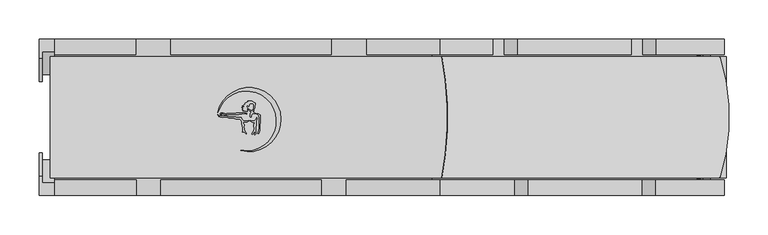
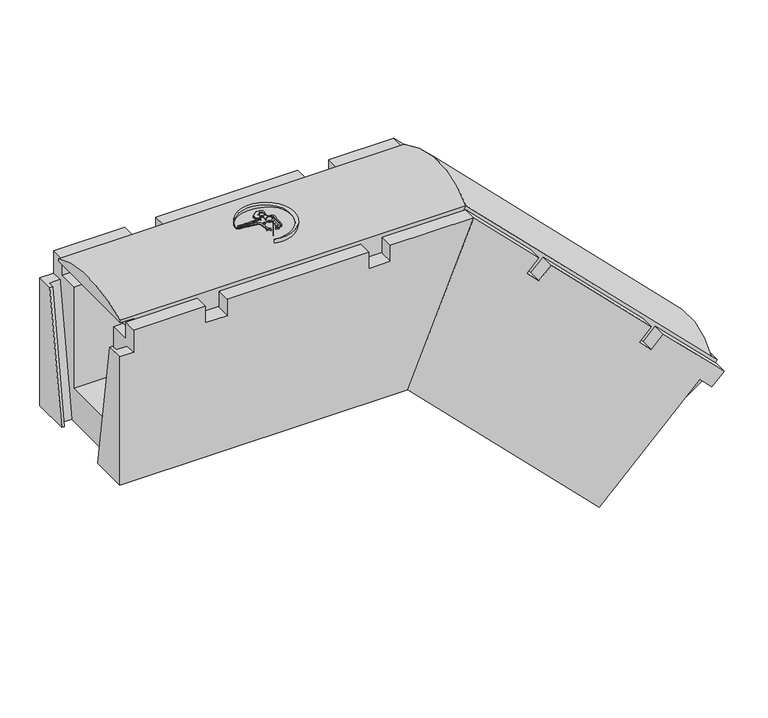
"""IFC4 building model written with IfcOpenShell, lengths in millimetres: cable carrier fitting geometry, Evotray type 1 vertical bend down : Evotray type 1 vertical bend down."""

import ifcopenshell
import ifcopenshell.guid

model = None  # the IFC model being written
_history = None  # IfcOwnerHistory: only IFC2X3 demands one
_inside = {}  # id of a spatial element -> (the spatial element, [elements in it])
_under = {}  # id of a project, library or spatial element -> (it, [spatial elements below it])
_declared = {}  # id of a project -> (the project, [libraries it declares])
_typed = {}  # id of a type object -> (the type object, [elements of that type])
_made_of = {}  # id of a material, layer set ... -> (it, [elements and type objects made of it])


def new_model(schema):
    """Start an empty IFC model of exactly this schema.

    Asked for "IFC4X3", IfcOpenShell would pick the latest addendum, in which some entities
    have other attributes; the version numbers below select the first issue.
    IFC2X3 requires an IfcOwnerHistory on every rooted entity: one is made here for all.
    """
    global model, _history
    if schema == "IFC4X3":
        model = ifcopenshell.file(schema_version=(4, 3, 0, 0))
    else:
        model = ifcopenshell.file(schema=schema)
    _inside.clear()
    _under.clear()
    _declared.clear()
    _typed.clear()
    _made_of.clear()
    _history = None
    if model.schema == "IFC2X3":
        org = make("IfcOrganization", Name="unknown")
        user = make(
            "IfcPersonAndOrganization",
            ThePerson=make("IfcPerson", FamilyName="unknown"),
            TheOrganization=org,
        )
        app = make(
            "IfcApplication",
            ApplicationDeveloper=org,
            Version="unknown",
            ApplicationFullName="unknown",
            ApplicationIdentifier="unknown",
        )
        _history = make(
            "IfcOwnerHistory",
            OwningUser=user,
            OwningApplication=app,
            ChangeAction="ADDED",
            CreationDate=0,
        )
    return model


def make(cls, **values):
    """One entity of the class cls with the attributes given. An attribute that is None is left unset."""
    return model.create_entity(
        cls, **{name: value for name, value in values.items() if value is not None}
    )


def rooted(cls, **values):
    """An entity with a GlobalId (a new one), such as an element, a storey or a relation."""
    return make(cls, GlobalId=ifcopenshell.guid.new(), OwnerHistory=_history, **values)


def si_unit(unit_type, name, prefix=None):
    """IfcSIUnit, for example si_unit("LENGTHUNIT", "METRE", prefix="MILLI")."""
    return make("IfcSIUnit", UnitType=unit_type, Prefix=prefix, Name=name)


def assignment(units):
    """IfcUnitAssignment: the units of a project."""
    return None if units is None else make("IfcUnitAssignment", Units=units)


def point(xyz):
    """IfcCartesianPoint."""
    return None if xyz is None else make("IfcCartesianPoint", Coordinates=xyz)


def direction(xyz):
    """IfcDirection."""
    return None if xyz is None else make("IfcDirection", DirectionRatios=xyz)


def frame(location, z_axis=None, x_axis=None):
    """IfcAxis2Placement3D, a coordinate frame: its origin and axes. An axis left out is left unset."""
    return make(
        "IfcAxis2Placement3D",
        Location=point(location),
        Axis=direction(z_axis),
        RefDirection=direction(x_axis),
    )


def frame_2d(location, x_axis=None):
    """IfcAxis2Placement2D, a coordinate frame in the plane: its origin and x axis."""
    return make(
        "IfcAxis2Placement2D", Location=point(location), RefDirection=direction(x_axis)
    )


def origin():
    """The frame at (0, 0, 0) with its axes left unset."""
    return frame((0.0, 0.0, 0.0))


def place(relative_to, where):
    """IfcLocalPlacement: puts the frame where relative to a parent placement (None: the world)."""
    return make(
        "IfcLocalPlacement", PlacementRelTo=relative_to, RelativePlacement=where
    )


def context(
    kind, dimensions, precision=None, world=None, true_north=None, identifier=None
):
    """IfcGeometricRepresentationContext, for example the 3D "Model" context."""
    return make(
        "IfcGeometricRepresentationContext",
        ContextIdentifier=identifier,
        ContextType=kind,
        CoordinateSpaceDimension=dimensions,
        Precision=precision,
        WorldCoordinateSystem=world,
        TrueNorth=true_north,
    )


def project(units=None, contexts=None):
    """IfcProject with its units and contexts."""
    return rooted(
        "IfcProject",
        Name="project",
        RepresentationContexts=contexts,
        UnitsInContext=assignment(units),
    )


def spatial(cls, under=None, at=None, **own):
    """A site, building, storey or space (cls), placed at a placement, below another one or the project."""
    s = rooted(cls, ObjectPlacement=at, **own)
    if under is not None:
        _under.setdefault(under.id(), (under, []))[1].append(s)
    return s


def polyline(points):
    """IfcPolyline through the points."""
    return make("IfcPolyline", Points=[point(p) for p in points])


def circle_curve(where, radius):
    """IfcCircle in the frame where."""
    return make("IfcCircle", Position=where, Radius=radius)


def ellipse_curve(where, semi_axis1, semi_axis2):
    """IfcEllipse in the frame where."""
    return make(
        "IfcEllipse", Position=where, SemiAxis1=semi_axis1, SemiAxis2=semi_axis2
    )


def trimmed(basis, trim1, trim2, sense, master):
    """IfcTrimmedCurve: the piece of a basis curve between two trims."""
    return make(
        "IfcTrimmedCurve",
        BasisCurve=basis,
        Trim1=trim1,
        Trim2=trim2,
        SenseAgreement=sense,
        MasterRepresentation=master,
    )


def segment(curve, same_sense, transition):
    """IfcCompositeCurveSegment."""
    return make(
        "IfcCompositeCurveSegment",
        Transition=transition,
        SameSense=same_sense,
        ParentCurve=curve,
    )


def composite_curve(segments, self_intersect=None):
    """IfcCompositeCurve: segments joined end to end."""
    return make("IfcCompositeCurve", Segments=segments, SelfIntersect=self_intersect)


def outline(outer, holes=None, kind="AREA"):
    """IfcArbitraryClosedProfileDef: a profile drawn as a closed curve; with holes, ...WithVoids."""
    if holes is None:
        return make("IfcArbitraryClosedProfileDef", ProfileType=kind, OuterCurve=outer)
    return make(
        "IfcArbitraryProfileDefWithVoids",
        ProfileType=kind,
        OuterCurve=outer,
        InnerCurves=holes,
    )


def extrude(swept, where, along, depth):
    """IfcExtrudedAreaSolid: the profile swept, set in the frame where, extruded along a direction by depth."""
    return make(
        "IfcExtrudedAreaSolid",
        SweptArea=swept,
        Position=where,
        ExtrudedDirection=direction(along),
        Depth=depth,
    )


def faces_of(points, faces, orient=None, outer=None):
    """IfcFace entities. A face is a list of loops; a loop is a list of indices into points, from 0.

    orient and outer hold one flag for each loop. By default every Orientation is true, the
    first loop of a face is its IfcFaceOuterBound and the others are IfcFaceBound.
    """
    made = []
    for i, loops in enumerate(faces):
        bounds = []
        for j, loop in enumerate(loops):
            is_outer = j == 0 if outer is None else outer[i][j]
            bounds.append(
                make(
                    "IfcFaceOuterBound" if is_outer else "IfcFaceBound",
                    Bound=make("IfcPolyLoop", Polygon=[points[k] for k in loop]),
                    Orientation=True if orient is None else orient[i][j],
                )
            )
        made.append(make("IfcFace", Bounds=bounds))
    return made


def faceted_brep(points, faces, orient=None, outer=None, voids=None):
    """IfcFacetedBrep: a solid bounded by flat faces; with voids (closed shells), ...WithVoids."""
    shared = [point(p) for p in points]
    hull = make("IfcClosedShell", CfsFaces=faces_of(shared, faces, orient, outer))
    if voids is None:
        return make("IfcFacetedBrep", Outer=hull)
    return make(
        "IfcFacetedBrepWithVoids",
        Outer=hull,
        Voids=[
            make(cls, CfsFaces=faces_of(shared, fs, o, b)) for cls, fs, o, b in voids
        ],
    )


def shape(context_of_items, identifier, shape_type, items):
    """IfcShapeRepresentation: the items that make up one representation, for example the "Body"."""
    return make(
        "IfcShapeRepresentation",
        ContextOfItems=context_of_items,
        RepresentationIdentifier=identifier,
        RepresentationType=shape_type,
        Items=items,
    )


def source(mapping_origin, context_of_items, identifier, shape_type, items):
    """IfcRepresentationMap: a shape defined once, which mapped items show again and again."""
    return make(
        "IfcRepresentationMap",
        MappingOrigin=mapping_origin,
        MappedRepresentation=shape(context_of_items, identifier, shape_type, items),
    )


def transform(
    local_origin,
    x_axis=None,
    y_axis=None,
    z_axis=None,
    scale=None,
    scale2=None,
    scale3=None,
    uniform=True,
):
    """IfcCartesianTransformationOperator3D, or its non-uniform kind. x_axis, y_axis, z_axis: its Axis1, 2, 3."""
    if uniform:
        return make(
            "IfcCartesianTransformationOperator3D",
            Axis1=direction(x_axis),
            Axis2=direction(y_axis),
            LocalOrigin=point(local_origin),
            Scale=scale,
            Axis3=direction(z_axis),
        )
    return make(
        "IfcCartesianTransformationOperator3DnonUniform",
        Axis1=direction(x_axis),
        Axis2=direction(y_axis),
        LocalOrigin=point(local_origin),
        Scale=scale,
        Axis3=direction(z_axis),
        Scale2=scale2,
        Scale3=scale3,
    )


def mapped(mapping_source, mapping_target):
    """IfcMappedItem: shows the shape of a source again, moved by a transform."""
    return make(
        "IfcMappedItem", MappingSource=mapping_source, MappingTarget=mapping_target
    )


def made_of(thing, what):
    """Note that an element or type object is made of a material, layer set ...; save() writes the relation."""
    if what is not None:
        _made_of.setdefault(what.id(), (what, []))[1].append(thing)
    return thing


def element(
    cls,
    number,
    at=None,
    inside=None,
    cuts=None,
    type_object=None,
    material=None,
    context=None,
    identifier="Body",
    shape_type=None,
    held_by="IfcProductDefinitionShape",
    body=None,
    shapes=None,
    **own,
):
    """One element of the class cls, such as IfcWall. Its Tag is "e" and its number.

    at: its placement. inside: the storey or other place that contains it. cuts: it is an
    opening in that element (IfcRelVoidsElement). A single representation is given by context,
    identifier, shape_type and body (its items); several are given by shapes. held_by: the class
    of the entity that holds the representations. save() writes the other relations.
    """
    e = rooted(cls, Tag="e%d" % number, ObjectPlacement=at, **own)
    if body is not None:
        shapes = [shape(context, identifier, shape_type, body)]
    if shapes is not None:
        e.Representation = make(held_by, Representations=shapes)
    if inside is not None:
        _inside.setdefault(inside.id(), (inside, []))[1].append(e)
    if cuts is not None:
        rooted(
            "IfcRelVoidsElement", RelatingBuildingElement=cuts, RelatedOpeningElement=e
        )
    if type_object is not None:
        _typed.setdefault(type_object.id(), (type_object, []))[1].append(e)
    return made_of(e, material)


def aggregate(whole, parts):
    """IfcRelAggregates: a whole, such as a stair, and the parts it consists of."""
    return rooted("IfcRelAggregates", RelatingObject=whole, RelatedObjects=parts)


def save(model, path):
    """Write the relations noted so far, then the file.

    IfcRelAggregates (storeys below a building ...), IfcRelContainedInSpatialStructure (elements
    in a storey), IfcRelDefinesByType, IfcRelAssociatesMaterial and IfcRelDeclares: one each for
    every whole, place, type object, material and project.
    """
    for whole, parts in _under.values():
        aggregate(whole, parts)
    for where, things in _inside.values():
        rooted(
            "IfcRelContainedInSpatialStructure",
            RelatedElements=things,
            RelatingStructure=where,
        )
    for kind, things in _typed.values():
        rooted("IfcRelDefinesByType", RelatedObjects=things, RelatingType=kind)
    for what, things in _made_of.values():
        rooted("IfcRelAssociatesMaterial", RelatedObjects=things, RelatingMaterial=what)
    for by, libraries in _declared.values():
        rooted("IfcRelDeclares", RelatingContext=by, RelatedDefinitions=libraries)
    model.write(path)


def plane_surface(at):
    """IfcPlane: the flat surface through the origin of the frame at, square to its z axis."""
    return make("IfcPlane", Position=at)


def cylinder_surface(at, radius):
    """IfcCylindricalSurface: all points at the distance radius from the z axis of the frame at."""
    return make("IfcCylindricalSurface", Position=at, Radius=radius)


def advanced_brep(points, edges, surfaces, faces):
    """IfcAdvancedBrep: a solid bounded by faces that lie on surfaces and meet in shared edges.

    An edge is (start, end): straight between two places in points (the first is 0);
    or (start, end, curve); or (start, end, curve, False) where it runs against its curve.
    A face is (place in surfaces, loops), or (place, loops, False) where it looks against
    its surface's normal. A loop lists edges by number (the first is 1), with a minus sign
    where the edge is run from its end to its start. The first loop is the outer one.
    """
    corners = [point(p) for p in points]
    vertices = [make("IfcVertexPoint", VertexGeometry=c) for c in corners]
    made = []
    for start, end, *more in edges:
        made.append(
            make(
                "IfcEdgeCurve",
                EdgeStart=vertices[start],
                EdgeEnd=vertices[end],
                EdgeGeometry=more[0] if more else make("IfcPolyline", Points=[corners[start], corners[end]]),
                SameSense=more[1] if len(more) > 1 else True,
            )
        )
    hull = []
    for where, loops, *sense in faces:
        bounds = []
        for j, loop in enumerate(loops):
            ring = [make("IfcOrientedEdge", EdgeElement=made[abs(k) - 1], Orientation=k > 0) for k in loop]
            bounds.append(
                make(
                    "IfcFaceOuterBound" if j == 0 else "IfcFaceBound",
                    Bound=make("IfcEdgeLoop", EdgeList=ring),
                    Orientation=True,
                )
            )
        hull.append(make("IfcAdvancedFace", Bounds=bounds, FaceSurface=surfaces[where], SameSense=sense[0] if sense else True))
    return make("IfcAdvancedBrep", Outer=make("IfcClosedShell", CfsFaces=hull))


def cable_carrier_fitting_f048bf2b(model_context):
    return source(origin(), model_context, "Body", "SolidModel", [
        extrude(outline(composite_curve([segment(polyline([(-110.1987673, 5.907559), (-108.7730763, 5.0844359), (-109.4820077, 4.6751342), (-112.0469375, 4.6751342), (-114.5064308, 2.2156409), (-114.5064308, 0.6319729), (-115.5639447, 0.3486129), (-115.8953119, 1.5852919), (-115.5730905, 2.7878385), (-115.5730905, 5.0146536), (-114.1065498, 6.4811943), (-114.5064308, 7.1738084), (-115.5730905, 7.7896447), (-116.4313624, 8.2851682), (-117.4244859, 9.2782918), (-117.4244859, 10.5283487), (-116.6366917, 10.0735155), (-115.5730905, 9.0099142), (-114.5064308, 8.394078), (-112.1936661, 8.394078), (-111.5617675, 9.0259766), (-111.5617675, 10.6343813), (-111.1559104, 11.3373462), (-110.9163405, 12.2314336), (-110.9163405, 16.3268685), (-111.5617675, 16.9722955), (-115.5730905, 17.3232408), (-116.3212546, 16.8912881), (-116.7531031, 16.1433045), (-116.9754965, 15.313321), (-117.2482129, 13.7666695), (-117.8042347, 14.3226912), (-118.3698905, 14.8883471), (-119.3304254, 14.8883471), (-119.8048648, 14.0665939), (-119.8048648, 13.2416885), (-119.4028177, 12.5453225), (-118.675123, 11.8176278), (-119.0717623, 10.3373496), (-119.4092623, 9.0777826), (-119.1064549, 7.3604762), (-119.907248, 7.2192748), (-121.6376932, 7.6829462), (-122.8844025, 8.2642963), (-123.6376597, 8.6155459), (-125.2371082, 8.33352), (-124.7695498, 9.1433549), (-123.1127288, 9.7463885)]), True, "CONTINUOUS"), segment(trimmed(circle_curve(frame_2d((-123.6788564, 9.4744491)), 0.6280537), [point((-123.1127288, 9.7463885))], [point((-123.8344386, 10.0829273))], True, "CARTESIAN"), True, "CONTINUOUS"), segment(polyline([(-123.8344386, 10.0829273), (-125.7814537, 10.0829273), (-125.2232755, 10.6411054), (-124.3724958, 10.9507639), (-123.5540563, 11.2486515)]), True, "CONTINUOUS"), segment(trimmed(circle_curve(frame_2d((-124.2923812, 11.2486515)), 0.7383249), [point((-123.5540563, 11.2486515))], [point((-124.2923812, 11.9869764))], True, "CARTESIAN"), True, "CONTINUOUS"), segment(polyline([(-124.2923812, 11.9869764), (-126.0001288, 11.9869764), (-126.3916504, 12.6651117), (-124.5730583, 12.9857785), (-123.2767203, 13.457607), (-123.897473, 14.0783597), (-125.8606925, 14.0783597), (-125.30811, 14.6309421), (-124.2782773, 15.2255163), (-123.603553, 15.9002407), (-122.8807357, 16.3175594), (-121.9057237, 16.8804829)]), True, "CONTINUOUS"), segment(trimmed(circle_curve(frame_2d((-122.1167091, 17.2459203)), 0.4219708), [point((-121.9057237, 16.8804829))], [point((-122.3276945, 17.6113577))], True, "CARTESIAN"), True, "CONTINUOUS"), segment(polyline([(-122.3276945, 17.6113577), (-121.7102978, 18.2287544), (-120.4076278, 18.7028875), (-119.4125713, 19.2773836), (-118.2810347, 19.4769041), (-118.6348604, 20.4490324), (-113.6348604, 20.4490324), (-112.6206866, 19.9761154), (-111.4988316, 19.6755153), (-110.4843855, 19.0898245), (-109.3757091, 17.9811481), (-109.3757091, 15.4151328), (-109.8646262, 14.5683035), (-109.8646262, 11.8362675), (-110.3536612, 10.7875287), (-110.760463, 10.0829273), (-110.760463, 8.2341629), (-111.5617675, 7.7715296), (-112.3950459, 7.6246001)]), True, "CONTINUOUS"), segment(trimmed(circle_curve(frame_2d((-111.3420944, 7.3424626)), 1.0900956), [point((-112.3950459, 7.6246001))], [point((-111.6242319, 6.2895111))], True, "CARTESIAN"), True, "CONTINUOUS"), segment(polyline([(-111.6242319, 6.2895111), (-110.1987673, 5.907559)]), True, "CONTINUOUS")], self_intersect=False)), frame((0.0, 0.0, 229.0645802), z_axis=(0.0, 0.0, 1.0), x_axis=(1.0, 0.0, 0.0)), (0.0, 0.0, 1.0), 22.5),
        extrude(outline(polyline([(-105.6420581, 3.0525563), (-107.5647021, 4.1625953), (-106.375462, 4.4812513), (-105.0006066, 3.9808448), (-102.8744575, 2.753312), (-102.462808, 1.2170154), (-102.462808, -1.5561738), (-102.8811889, -3.9289297), (-103.2073261, -13.2682758), (-103.2073261, -16.1231727), (-103.766974, -19.297094), (-104.9259981, -20.4561181), (-105.8234867, -20.4561181), (-105.1486125, -18.6019165), (-104.8396569, -16.8497423), (-104.3251997, -13.9321102), (-104.3251997, -2.6926455), (-103.883565, -0.1880111), (-104.4260419, 1.8365401), (-105.6420581, 3.0525563)])), frame((0.0, 0.0, 229.0645802), z_axis=(0.0, 0.0, 1.0), x_axis=(1.0, 0.0, 0.0)), (0.0, 0.0, 1.0), 22.5),
        extrude(outline(composite_curve([segment(polyline([(-113.070307, -4.5554644), (-111.0881056, -4.5554644), (-109.6198413, -4.2965698), (-108.3145593, -2.9912878), (-107.1344504, -0.4605362), (-106.6534984, -1.7819409), (-107.2762062, -3.117342), (-107.9468137, -4.5554644), (-107.9468137, -10.5136603), (-108.3751928, -12.943119), (-108.3751928, -21.4242609), (-109.8238515, -22.8729196), (-110.3965887, -22.3001824), (-109.7178687, -20.5578122), (-109.4597233, -19.0937972)]), True, "CONTINUOUS"), segment(trimmed(circle_curve(frame_2d((-109.8743713, -19.0937972)), 0.414648), [point((-109.4597233, -19.0937972))], [point((-110.2890194, -19.0937972))], True, "CARTESIAN"), True, "CONTINUOUS"), segment(polyline([(-110.2890194, -19.0937972), (-111.0547081, -19.8594859), (-112.3215546, -21.3692548), (-112.9770637, -22.0247639), (-113.7693849, -21.6552984), (-111.605165, -18.4467105), (-111.2992553, -16.7118106), (-110.4571975, -14.9060116), (-110.19999, -13.4473154), (-110.9884987, -12.0815782), (-110.9884987, -9.315031), (-109.6653502, -7.4454743)]), True, "CONTINUOUS"), segment(trimmed(circle_curve(frame_2d((-110.0024552, -7.2068937)), 0.4129897), [point((-109.6653502, -7.4454743))], [point((-110.2410358, -6.8697887))], True, "CARTESIAN"), True, "CONTINUOUS"), segment(polyline([(-110.2410358, -6.8697887), (-112.2448508, -6.516462), (-113.6887473, -5.843162), (-115.508748, -4.9944818), (-115.508748, -4.1255015), (-113.070307, -4.5554644)]), True, "CONTINUOUS")], self_intersect=False)), frame((0.0, 0.0, 229.0645802), z_axis=(0.0, 0.0, 1.0), x_axis=(1.0, 0.0, 0.0)), (0.0, 0.0, 1.0), 22.5),
        extrude(outline(composite_curve([segment(polyline([(-155.4819029, 2.2537302), (-153.7462291, 1.4443722), (-149.5597552, 1.4443722), (-148.4890341, 1.731271), (-147.1624965, 1.731271), (-145.4413877, 1.4443722), (-143.4350656, 0.9067798), (-142.2818775, 0.597784), (-136.5899708, 0.597784), (-133.9734749, 0.1616293), (-132.6459123, -0.19409), (-127.03167, -0.19409)]), True, "CONTINUOUS"), segment(trimmed(circle_curve(frame_2d((-118.1781038, 2.7115165)), 9.3181642), [point((-127.03167, -0.19409))], [point((-123.6774022, -4.8108435))], True, "CARTESIAN"), True, "CONTINUOUS"), segment(polyline([(-123.6774022, -4.8108435), (-120.6256174, -4.8108435), (-118.5910388, -4.632841), (-117.4520349, -4.1017147), (-117.7095548, -5.0627921), (-118.6536491, -5.6078652), (-119.612336, -5.9567987), (-122.847041, -5.8438403), (-124.0357356, -6.2764898), (-124.44473, -7.153581), (-124.3696494, -8.0117562), (-123.8907652, -8.8412079), (-123.1701597, -9.5618134), (-123.1701597, -11.3180259), (-123.53546, -12.3216801), (-123.3911934, -13.970655), (-122.8861011, -15.8556852), (-122.737982, -17.5486944), (-120.3666469, -20.2766033), (-120.5753239, -21.4600691), (-123.1701597, -18.8652332), (-124.1329913, -19.1232231), (-125.5361675, -18.8758053), (-125.2606072, -18.1187094), (-125.2606072, -15.8446539), (-125.0850033, -14.8487551), (-125.2606072, -12.8415943), (-125.6362696, -11.8094702), (-125.6362696, -9.9842873), (-126.0826053, -9.0271173), (-126.0826053, -6.6493678), (-126.3310455, -5.7221762), (-126.7830159, -4.9393406), (-127.2317276, -4.1621491), (-127.84617, -3.5477067), (-128.2800213, -2.6173096), (-131.8809595, -2.4915621), (-134.2251115, -2.1008055), (-136.2577048, -1.5561738), (-139.5993244, -1.2049554), (-141.6789374, -1.2049554), (-143.021172, -0.8453047), (-144.5447671, -0.4370587), (-145.8880204, 0.1893106), (-146.8824091, 0.1893106), (-149.5338495, 0.1893106), (-150.6460936, -0.1087143), (-152.5093755, 0.0871245), (-153.9984504, 0.3353447), (-155.6717579, 1.1156208), (-156.6476843, 2.0915471), (-157.2867674, 2.7306302), (-157.2867674, 3.5175099), (-155.4819029, 2.2537302)]), True, "CONTINUOUS")], self_intersect=False)), frame((0.0, 0.0, 229.0645802), z_axis=(0.0, 0.0, 1.0), x_axis=(1.0, 0.0, 0.0)), (0.0, 0.0, 1.0), 22.5),
        extrude(outline(composite_curve([segment(polyline([(-152.9796703, 3.7977023), (-151.956356, 3.2068915), (-153.6840165, 3.7265624), (-154.014163, 4.6441261), (-153.1758386, 5.4824506), (-150.30302, 5.4824506), (-149.318583, 5.0847122), (-148.2280942, 4.6441261), (-147.4299007, 4.1832889), (-146.1696706, 4.1832889), (-145.3486455, 4.4787), (-144.4633932, 4.9898007), (-138.0496883, 4.9898007), (-137.1941137, 4.6441261), (-136.1237116, 4.6441261), (-135.1629915, 4.9898007), (-133.9838348, 4.9898007), (-133.2654957, 5.4045339), (-127.8528405, 5.4045339), (-127.0925598, 5.6780888), (-125.8504018, 5.6780888), (-125.2746333, 6.2538574), (-123.3170698, 6.2538574), (-122.0290688, 5.7334711), (-121.0171524, 5.1492409), (-120.2127113, 4.8242256)]), True, "CONTINUOUS"), segment(trimmed(circle_curve(frame_2d((-120.6200436, 4.6596527)), 0.4393221), [point((-120.2127113, 4.8242256))], [point((-120.7846166, 4.2523203))], False, "CARTESIAN"), True, "CONTINUOUS"), segment(polyline([(-120.7846166, 4.2523203), (-121.8003453, 4.6627013), (-123.112003, 4.6627013), (-124.382433, 4.8867124), (-125.1944574, 4.5945398), (-126.3374314, 4.1832889), (-129.6816293, 4.1832889), (-130.4727027, 3.7265624), (-134.0400229, 3.7265624), (-134.9228853, 3.2168416), (-144.9228853, 3.2168416), (-147.5335493, 2.9884381), (-151.222077, 4.4787), (-153.3728446, 4.4787), (-152.9796703, 3.7977023)]), True, "CONTINUOUS")], self_intersect=False)), frame((0.0, 0.0, 229.0645802), z_axis=(0.0, 0.0, 1.0), x_axis=(1.0, 0.0, 0.0)), (0.0, 0.0, 1.0), 22.5),
        extrude(outline(composite_curve([segment(trimmed(circle_curve(frame_2d((-120.3994103, -4.8721323)), 38.3616107), [point((-127.8072471, -42.511701))], [point((-157.1109456, 6.2578432))], True, "CARTESIAN"), True, "CONTINUOUS"), segment(trimmed(circle_curve(frame_2d((-117.2700096, -2.9917986)), 40.900563), [point((-157.1109456, 6.2578432))], [point((-127.8072471, -42.511701))], False, "CARTESIAN"), True, "CONTINUOUS")], self_intersect=False)), frame((0.0, 0.0, 229.0645802), z_axis=(0.0, 0.0, 1.0), x_axis=(1.0, 0.0, 0.0)), (0.0, 0.0, 1.0), 22.5),
        advanced_brep(
        [(116.9461761, -77.5, 205.0), (471.8757211, -77.5, -149.9295449), (492.3648071, -77.5, -129.4404589), (483.8795257, -77.5, -120.9551776), (128.9583694, -77.5, 234.0), (471.8757211, 77.5, -149.9295449), (116.9461761, 77.5, 205.0), (128.9583694, 77.5, 234.0), (483.8965363, 77.5, -120.9381669), (492.3648071, 77.5, -129.4404589)],
        [
            (0, 1),
            (1, 2),
            (2, 3),
            (3, 4),
            (4, 0),
            (5, 6),
            (6, 7),
            (7, 8),
            (8, 9),
            (9, 5),
            (1, 5),
            (9, 2),
            (6, 0),
            (4, 7, ellipse_curve(frame((58.9946091, 0.0, 65.092541), z_axis=(-0.9238795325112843, 0.0, 0.38268343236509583), x_axis=(-0.38268343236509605, 0.0, -0.9238795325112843)), 201.150235, 185.8385851)),
            (8, 3),
            (8, 3, circle_curve(frame((364.4609267, 0.0, -240.3737766), z_axis=(0.707106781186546, 0.0, -0.707106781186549), x_axis=(0.0, -1.0, 0.0)), 185.8385851)),
        ],
        [
            plane_surface(frame((471.8757211, -77.5, -149.9295449), z_axis=(0.0, -1.0, 0.0), x_axis=(0.7071067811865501, 0.0, 0.7071067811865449))),
            plane_surface(frame((471.8757211, 77.5, -149.9295449), z_axis=(0.0, 1.0, 0.0), x_axis=(-0.7071067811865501, 0.0, -0.7071067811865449))),
            plane_surface(frame((471.8757211, -77.5, -149.9295449), z_axis=(0.7071067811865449, 0.0, -0.7071067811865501), x_axis=(0.0, 1.0, 0.0))),
            plane_surface(frame((136.0, -77.5, 251.0), z_axis=(-0.9238795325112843, 0.0, 0.38268343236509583), x_axis=(0.0, 1.0, 0.0))),
            plane_surface(frame((116.9461761, -77.5, 205.0), z_axis=(-0.7071067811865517, 0.0, -0.7071067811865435), x_axis=(0.0, 1.0, 0.0))),
            plane_surface(frame((492.3648071, -77.5, -129.4404589), z_axis=(0.7071067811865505, 0.0, 0.7071067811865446), x_axis=(-0.7071067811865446, 0.0, 0.7071067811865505))),
            plane_surface(frame((483.8795257, -77.5, -120.9551776), z_axis=(0.7071067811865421, 0.0, -0.707106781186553), x_axis=(0.707106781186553, 0.0, 0.7071067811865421))),
            cylinder_surface(frame((11.2801191, 0.0, 112.807031), z_axis=(0.707106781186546, 0.0, -0.707106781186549), x_axis=(0.0, -1.0, 0.0)), 185.8385851),
        ],
        [
            (0, [[1, 2, 3, 4, 5]]),
            (1, [[6, 7, 8, 9, 10]]),
            (2, [[11, -10, 12, -2]]),
            (3, [[13, -5, 14, -7]]),
            (4, [[-1, -13, -6, -11]]),
            (5, [[15, -3, -12, -9]]),
            (6, [[-15, 16]]),
            (7, [[-4, -16, -8, -14]]),
        ],
    ),
        advanced_brep(
        [(-351.0, -77.5, 205.0), (116.9461761, -77.5, 205.0), (128.9583694, -77.5, 234.0), (-371.0, -77.5, 234.0), (-371.0, -77.5, 230.0), (-351.0, -77.5, 230.0), (116.9461761, 77.5, 205.0), (-351.0, 77.5, 205.0), (-351.0, 77.5, 230.0), (-371.0, 77.5, 230.0), (-371.0, 77.5, 234.0), (128.9583694, 77.5, 234.0)],
        [
            (0, 1),
            (1, 2),
            (2, 3),
            (3, 4),
            (4, 5),
            (5, 0),
            (6, 7),
            (7, 8),
            (8, 9),
            (9, 10),
            (10, 11),
            (11, 6),
            (9, 4),
            (3, 10, circle_curve(frame((-371.0, 0.0, 65.092541), z_axis=(-1.0, 0.0, 0.0), x_axis=(0.0, -1.0, 0.0)), 185.8385851)),
            (6, 1),
            (0, 7),
            (11, 2, ellipse_curve(frame((58.9946091, 0.0, 65.092541), z_axis=(0.9238795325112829, 0.0, -0.38268343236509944), x_axis=(0.3826834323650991, 0.0, 0.9238795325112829)), 201.150235, 185.8385851)),
            (8, 5),
        ],
        [
            plane_surface(frame((-371.0, -77.5, 205.0), z_axis=(0.0, -1.0, 0.0), x_axis=(0.0, 0.0, -1.0))),
            plane_surface(frame((-371.0, 77.5, 205.0), z_axis=(0.0, 1.0, 0.0), x_axis=(0.0, 0.0, 1.0))),
            plane_surface(frame((-371.0, -77.5, 251.0), z_axis=(-1.0, 0.0, 0.0), x_axis=(0.0, 1.0, 0.0))),
            plane_surface(frame((-371.0, -77.5, 205.0), z_axis=(0.0, 0.0, -1.0), x_axis=(0.0, 1.0, 0.0))),
            plane_surface(frame((116.9461761, -77.5, 205.0), z_axis=(0.9238795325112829, 0.0, -0.38268343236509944), x_axis=(0.0, 1.0, 0.0))),
            plane_surface(frame((-371.0, 77.5, 230.0), z_axis=(0.0, 0.0, -1.0), x_axis=(-1.0, 0.0, 0.0))),
            plane_surface(frame((-351.0, -77.5, 230.0), z_axis=(-1.0, 0.0, 0.0), x_axis=(0.0, 0.0, -1.0))),
            cylinder_surface(frame((-371.0, 0.0, 65.092541), z_axis=(1.0, 0.0, 0.0), x_axis=(0.0, -1.0, 0.0)), 185.8385851),
        ],
        [
            (0, [[1, 2, 3, 4, 5, 6]]),
            (1, [[7, 8, 9, 10, 11, 12]]),
            (2, [[13, -4, 14, -10]]),
            (3, [[15, -1, 16, -7]]),
            (4, [[-15, -12, 17, -2]]),
            (5, [[18, -5, -13, -9]]),
            (6, [[-18, -8, -16, -6]]),
            (7, [[-3, -17, -11, -14]]),
        ],
    ),
        faceted_brep([(127.3015152, -100.0, 230.0), (32.0323958, -100.0, 0.0), (309.2411614, -100.0, -277.2087655), (454.1980515, -100.0, -132.2518754), (471.8757211, -100.0, -149.9295449), (489.5533906, -100.0, -132.2518754), (401.8721497, -100.0, -44.5706345), (384.1944802, -100.0, -62.2483041), (366.5168107, -100.0, -44.5706345), (384.1944802, -100.0, -26.892965), (239.2375901, -100.0, 118.0639251), (221.5599205, -100.0, 100.3862556), (203.882251, -100.0, 118.0639251), (221.5599205, -100.0, 135.7415947), (32.0323958, 100.0, 0.0), (127.3015152, 100.0, 230.0), (193.9827561, 100.0, 163.3187591), (176.3050865, 100.0, 145.6410896), (208.1248917, 100.0, 113.8212844), (225.8025612, 100.0, 131.498954), (370.7594514, 100.0, -13.4579362), (353.0817818, 100.0, -31.1356057), (384.901587, 100.0, -62.9554108), (402.5792565, 100.0, -45.2777413), (489.5533906, 100.0, -132.2518754), (471.8757211, 100.0, -149.9295449), (454.1980515, 100.0, -132.2518754), (309.2411614, 100.0, -277.2087655), (471.8757211, -50.0, -149.9295449), (471.8757211, -80.0, -149.9295449), (326.9188309, -45.4, -294.8864351), (326.9188309, 45.4, -294.8864351), (471.8757211, 80.0, -149.9295449), (471.8757211, 50.0, -149.9295449), (362.27417, 50.0, -259.531096), (362.27417, -50.0, -259.531096), (489.5533906, -80.0, -132.2518754), (489.5533906, 80.0, -132.2518754), (384.1944802, -80.0, -26.892965), (239.2375901, -80.0, 118.0639251), (225.8025612, 80.0, 131.498954), (370.7594514, 80.0, -13.4579362), (401.8721497, -80.0, -44.5706345), (402.5792565, 80.0, -45.2777413), (127.3015152, -80.0, 230.0), (221.5599205, -80.0, 135.7415947), (127.3015152, 80.0, 230.0), (193.9827561, 80.0, 163.3187591), (116.9461761, -80.0, 205.0), (116.9461761, -50.0, 205.0), (52.743074, -50.0, 50.0), (52.743074, 50.0, 50.0), (116.9461761, 50.0, 205.0), (116.9461761, 80.0, 205.0), (309.2411614, 43.0, -277.2087655), (317.7264428, 43.0, -285.6940469), (317.7264428, 45.4, -285.6940469), (317.7264428, -45.4, -285.6940469), (317.7264428, -43.0, -285.6940469), (309.2411614, -43.0, -277.2087655), (462.6833329, -80.0, -140.7371568), (454.1980515, -80.0, -132.2518754), (384.1944802, -80.0, -62.2483041), (366.5168107, -80.0, -44.5706345), (221.5599205, -80.0, 100.3862556), (203.882251, -80.0, 118.0639251), (384.901587, 80.0, -62.9554108), (454.1980515, 80.0, -132.2518754), (462.6833329, 80.0, -140.7371568), (208.1248917, 80.0, 113.8212844), (353.0817818, 80.0, -31.1356057), (176.3050865, 80.0, 145.6410896), (454.1980515, -77.6, -132.2518754), (462.6833329, -77.6, -140.7371568), (462.6833329, 77.6, -140.7371568), (454.1980515, 77.6, -132.2518754)], [[[0, 1, 2, 3, 4, 5, 6, 7, 8, 9, 10, 11, 12, 13]], [[14, 15, 16, 17, 18, 19, 20, 21, 22, 23, 24, 25, 26, 27]], [[28, 29, 30, 31, 32, 33, 34, 35]], [[36, 5, 4, 29]], [[24, 37, 32, 25]], [[10, 9, 38, 39]], [[20, 19, 40, 41]], [[5, 36, 42, 6]], [[37, 24, 23, 43]], [[44, 0, 13, 45]], [[15, 46, 47, 16]], [[1, 0, 44, 48, 49, 50, 51, 52, 53, 46, 15, 14]], [[1, 14, 27, 54, 55, 56, 31, 30, 57, 58, 59, 2]], [[36, 29, 60, 61, 62, 42]], [[39, 38, 63, 64]], [[48, 44, 45, 65]], [[32, 37, 43, 66, 67, 68]], [[41, 40, 69, 70]], [[46, 53, 71, 47]], [[49, 48, 65, 12, 11, 64, 63, 8, 7, 62, 61, 72, 73, 60, 29, 28]], [[53, 52, 33, 32, 68, 74, 75, 67, 66, 22, 21, 70, 69, 18, 17, 71]], [[35, 50, 49, 28]], [[51, 34, 33, 52]], [[50, 35, 34, 51]], [[60, 29, 4, 3, 61]], [[29, 60, 57, 30]], [[32, 68, 67, 26, 25]], [[68, 32, 31, 56]], [[58, 73, 72, 59]], [[59, 72, 61, 3, 2]], [[73, 58, 57, 60]], [[54, 75, 74, 55]], [[75, 54, 27, 26, 67]], [[55, 74, 68, 56]], [[70, 21, 20, 41]], [[22, 66, 43, 23]], [[62, 7, 6, 42]], [[8, 63, 38, 9]], [[71, 17, 16, 47]], [[18, 69, 40, 19]], [[64, 11, 10, 39]], [[12, 65, 45, 13]]]),
        faceted_brep([(-385.0, -100.0, 0.0), (32.0323958, -100.0, 0.0), (127.3015152, -100.0, 230.0), (6.6963481, -100.0, 230.0), (6.6963481, -100.0, 205.0), (-24.6518259, -100.0, 205.0), (-24.6518259, -100.0, 230.0), (-229.6518259, -100.0, 230.0), (-229.6518259, -100.0, 205.0), (-261.0, -100.0, 205.0), (-261.0, -100.0, 230.0), (-365.0130369, -100.0, 230.0), (-365.0130369, -100.0, 196.0), (-385.0, -100.0, 196.0), (127.3015152, 100.0, 230.0), (32.0323958, 100.0, 0.0), (-385.0, 100.0, 0.0), (-385.0, 100.0, 196.0), (-365.0130369, 100.0, 196.0), (-365.0130369, 100.0, 230.0), (-262.0, 100.0, 230.0), (-262.0, 100.0, 205.0), (-217.0, 100.0, 205.0), (-217.0, 100.0, 230.0), (-12.0, 100.0, 230.0), (-12.0, 100.0, 205.0), (33.0, 100.0, 205.0), (33.0, 100.0, 230.0), (-24.6518259, -80.0, 230.0), (-229.6518259, -80.0, 230.0), (-217.0, 80.0, 230.0), (-12.0, 80.0, 230.0), (127.3015152, -80.0, 230.0), (6.6963481, -80.0, 230.0), (127.3015152, 80.0, 230.0), (33.0, 80.0, 230.0), (-365.0130369, -80.0, 230.0), (-261.0, -80.0, 230.0), (-365.0130369, 80.0, 230.0), (-262.0, 80.0, 230.0), (-385.0, -45.45, 0.0), (-385.0, -74.8926087, 196.0), (-385.0, 45.45, 0.0), (-385.0, 74.8926087, 196.0), (-381.0, -45.45, 0.0), (-381.0, -54.6, 0.0), (-365.0, -54.6, 0.0), (-365.0, 54.6, 0.0), (-381.0, 54.6, 0.0), (-381.0, 45.45, 0.0), (116.9461761, 80.0, 205.0), (116.9461761, 50.0, 205.0), (52.743074, 50.0, 50.0), (52.743074, -50.0, 50.0), (116.9461761, -50.0, 205.0), (116.9461761, -80.0, 205.0), (-381.0, 74.8926087, 196.0), (-381.0, -74.8926087, 196.0), (-365.0, 84.0426087, 196.0), (-381.0, 84.0426087, 196.0), (-381.0, -84.0426087, 196.0), (-365.0, -84.0426087, 196.0), (-365.0, -80.0, 205.0), (-365.0, -77.5, 205.0), (-365.0, -50.0, 205.0), (-365.0, -50.0, 50.0), (-365.0, 50.0, 50.0), (-365.0, 50.0, 205.0), (-365.0, 77.5, 205.0), (-365.0, 80.0, 205.0), (-24.6518259, -80.0, 205.0), (-229.6518259, -80.0, 205.0), (6.6963481, -80.0, 205.0), (-261.0, -80.0, 205.0), (-217.0, 80.0, 205.0), (-12.0, 80.0, 205.0), (33.0, 80.0, 205.0), (-262.0, 80.0, 205.0), (-351.0, 50.0, 205.0), (-351.0, -50.0, 205.0)], [[[0, 1, 2, 3, 4, 5, 6, 7, 8, 9, 10, 11, 12, 13]], [[14, 15, 16, 17, 18, 19, 20, 21, 22, 23, 24, 25, 26, 27]], [[7, 6, 28, 29]], [[24, 23, 30, 31]], [[2, 32, 33, 3]], [[34, 14, 27, 35]], [[36, 11, 10, 37]], [[19, 38, 39, 20]], [[40, 0, 13, 41]], [[16, 42, 43, 17]], [[1, 0, 40, 44, 45, 46, 47, 48, 49, 42, 16, 15]], [[2, 1, 15, 14, 34, 50, 51, 52, 53, 54, 55, 32]], [[42, 49, 56, 43]], [[44, 40, 41, 57]], [[48, 47, 58, 59]], [[45, 44, 57, 60]], [[49, 48, 59, 56]], [[46, 45, 60, 61]], [[47, 46, 61, 12, 11, 36, 62, 63, 64, 65, 66, 67, 68, 69, 38, 19, 18, 58]], [[12, 61, 60, 57, 41, 13]], [[58, 18, 17, 43, 56, 59]], [[29, 28, 70, 71]], [[32, 55, 72, 33]], [[62, 36, 37, 73]], [[31, 30, 74, 75]], [[50, 34, 35, 76]], [[38, 69, 77, 39]], [[51, 50, 76, 26, 25, 75, 74, 22, 21, 77, 69, 68, 67, 78]], [[55, 54, 79, 64, 63, 62, 73, 9, 8, 71, 70, 5, 4, 72]], [[53, 65, 64, 79, 54]], [[66, 52, 51, 78, 67]], [[65, 53, 52, 66]], [[77, 21, 20, 39]], [[22, 74, 30, 23]], [[9, 73, 37, 10]], [[71, 8, 7, 29]], [[75, 25, 24, 31]], [[26, 76, 35, 27]], [[5, 70, 28, 6]], [[72, 4, 3, 33]]]),
    ])


if __name__ == "__main__":
    model = new_model("IFC4")
    model_context = context("Model", 3, world=origin())
    ifc_project = project(units=[si_unit("LENGTHUNIT", "METRE", prefix="MILLI")], contexts=[model_context])
    site = spatial("IfcSite", under=ifc_project)
    building = spatial("IfcBuilding", under=site)
    placement = place(None, origin())
    cable_carrier_fitting_shape = cable_carrier_fitting_f048bf2b(model_context)
    element("IfcCableCarrierFitting", 1, ObjectType="Evotray type 1 vertical bend down : Evotray type 1 vertical bend down", at=placement, inside=building, context=model_context, shape_type="MappedRepresentation", body=[
        mapped(cable_carrier_fitting_shape, transform((0.0, 0.0, 0.0), x_axis=(1.0, 0.0, 0.0), y_axis=(0.0, 1.0, 0.0), z_axis=(0.0, 0.0, 1.0))),
    ])
    save(model, "model.ifc")
